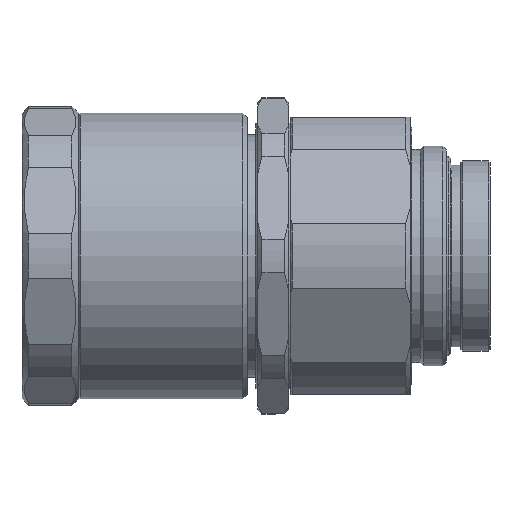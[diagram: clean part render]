
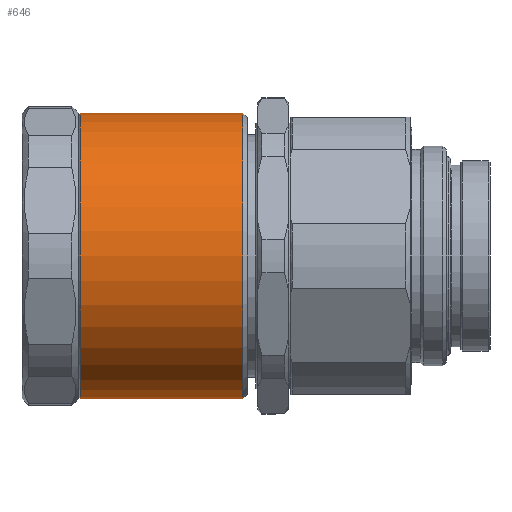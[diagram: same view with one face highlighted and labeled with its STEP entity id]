
A CAD part, front view. The second image highlights one B-rep face of the part: STEP entity #646.
In plain terms, the highlighted cylindrical face has radius 16.5 mm (diameter 33 mm), a partial arc.
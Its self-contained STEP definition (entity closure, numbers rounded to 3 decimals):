
#57 = CARTESIAN_POINT ( 'NONE',  ( -55.8, 0., 16.5 ) ) ;
#198 = EDGE_CURVE ( 'NONE', #3301, #3883, #2197, .T. ) ;
#316 = DIRECTION ( 'NONE',  ( 0., 0., 1. ) ) ;
#400 = VECTOR ( 'NONE', #3984, 1000. ) ;
#447 = CARTESIAN_POINT ( 'NONE',  ( -67.5, 0., -16.5 ) ) ;
#550 = CARTESIAN_POINT ( 'NONE',  ( -67.5, 0., 16.5 ) ) ;
#646 = ADVANCED_FACE ( 'NONE', ( #4313 ), #1461, .T. ) ;
#829 = CARTESIAN_POINT ( 'NONE',  ( -55.8, 0., 0. ) ) ;
#900 = ORIENTED_EDGE ( 'NONE', *, *, #2205, .F. ) ;
#1113 = CIRCLE ( 'NONE', #4504, 16.5 ) ;
#1305 = CIRCLE ( 'NONE', #1409, 16.5 ) ;
#1409 = AXIS2_PLACEMENT_3D ( 'NONE', #829, #3660, #2856 ) ;
#1461 = CYLINDRICAL_SURFACE ( 'NONE', #2372, 16.5 ) ;
#1486 = CARTESIAN_POINT ( 'NONE',  ( -37., 0., -16.5 ) ) ;
#1571 = CARTESIAN_POINT ( 'NONE',  ( -37., 0., 16.5 ) ) ;
#1898 = CARTESIAN_POINT ( 'NONE',  ( -37., 0., 0. ) ) ;
#2197 = LINE ( 'NONE', #550, #3114 ) ;
#2205 = EDGE_CURVE ( 'NONE', #4995, #2304, #4884, .T. ) ;
#2304 = VERTEX_POINT ( 'NONE', #4531 ) ;
#2372 = AXIS2_PLACEMENT_3D ( 'NONE', #3245, #4059, #2447 ) ;
#2447 = DIRECTION ( 'NONE',  ( 0., 0., 1. ) ) ;
#2576 = EDGE_CURVE ( 'NONE', #4995, #3301, #1113, .T. ) ;
#2675 = DIRECTION ( 'NONE',  ( -1., 0., 0. ) ) ;
#2856 = DIRECTION ( 'NONE',  ( 0., 0., 1. ) ) ;
#2951 = EDGE_LOOP ( 'NONE', ( #900, #3450, #4177, #3163 ) ) ;
#3114 = VECTOR ( 'NONE', #3252, 1000. ) ;
#3163 = ORIENTED_EDGE ( 'NONE', *, *, #4461, .F. ) ;
#3245 = CARTESIAN_POINT ( 'NONE',  ( -67.5, 0., 0. ) ) ;
#3252 = DIRECTION ( 'NONE',  ( -1., 0., 0. ) ) ;
#3301 = VERTEX_POINT ( 'NONE', #1571 ) ;
#3450 = ORIENTED_EDGE ( 'NONE', *, *, #2576, .T. ) ;
#3660 = DIRECTION ( 'NONE',  ( -1., 0., 0. ) ) ;
#3883 = VERTEX_POINT ( 'NONE', #57 ) ;
#3984 = DIRECTION ( 'NONE',  ( -1., 0., 0. ) ) ;
#4059 = DIRECTION ( 'NONE',  ( -1., 0., 0. ) ) ;
#4177 = ORIENTED_EDGE ( 'NONE', *, *, #198, .T. ) ;
#4313 = FACE_OUTER_BOUND ( 'NONE', #2951, .T. ) ;
#4461 = EDGE_CURVE ( 'NONE', #2304, #3883, #1305, .T. ) ;
#4504 = AXIS2_PLACEMENT_3D ( 'NONE', #1898, #2675, #316 ) ;
#4531 = CARTESIAN_POINT ( 'NONE',  ( -55.8, 0., -16.5 ) ) ;
#4884 = LINE ( 'NONE', #447, #400 ) ;
#4995 = VERTEX_POINT ( 'NONE', #1486 ) ;
